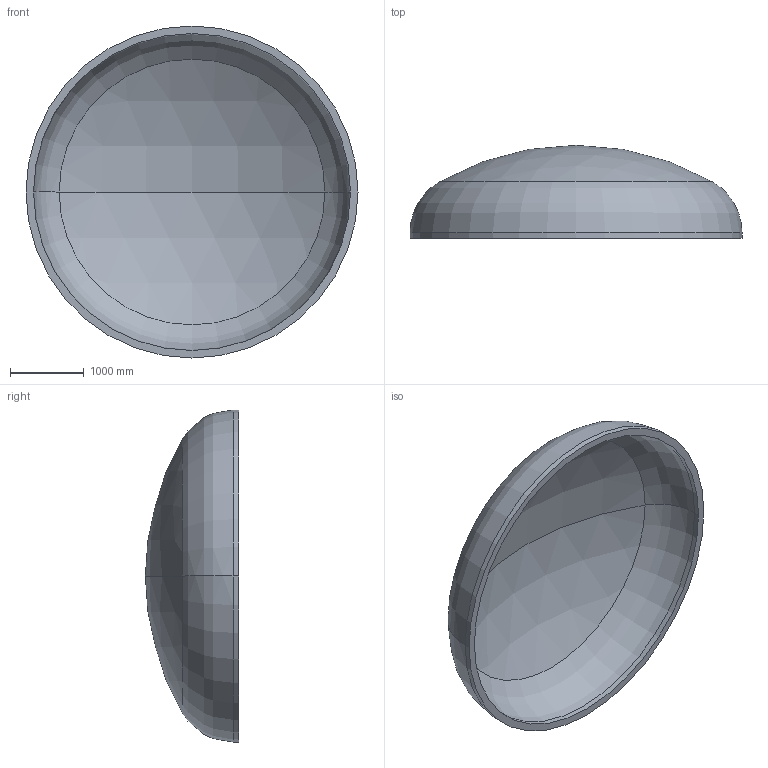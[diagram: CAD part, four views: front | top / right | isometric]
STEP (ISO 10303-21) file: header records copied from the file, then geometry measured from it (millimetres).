
FILE_DESCRIPTION (( 'STEP AP203' ), '1' );
FILE_NAME ('DIN 28013 Korbbogenform_-_Boden DIN 28013 - 4500 x 75 - I - s=102.step', '2016-07-01T23:52:04', ( '' ), ( '' ), 'SwSTEP 2.0', 'SolidWorks 2013', '' );
FILE_SCHEMA (( 'CONFIG_CONTROL_DESIGN' ));
Length unit declared in the file: millimetre
Products named in the file (1): DIN 28013 Korbbogenform_-_Boden DIN 28013 - 4500 x 75 - I - s=102
Bounding box: 4500 x 1261.48 x 4500 mm (x, y, z)
Volume: 2287801110.8 mm3; surface area: 46289925.2 mm2
Topology: 1 solids, 1 shells, 13 faces, 24 edges, 14 vertices
Faces by surface type: torus 4, cylinder 4, sphere 4, plane 1
Entity records: 407 total; most frequent: DIRECTION 72, CARTESIAN_POINT 52, ORIENTED_EDGE 48, AXIS2_PLACEMENT_3D 34, EDGE_CURVE 24, CIRCLE 20, VERTEX_POINT 14, EDGE_LOOP 14
